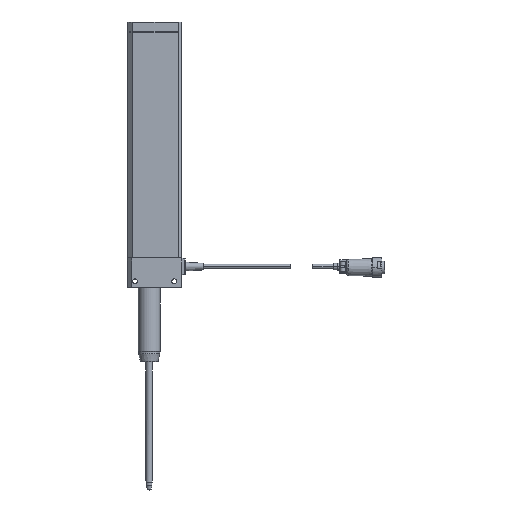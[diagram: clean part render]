
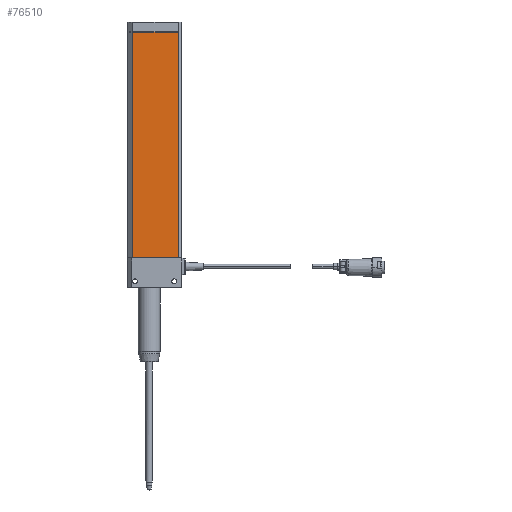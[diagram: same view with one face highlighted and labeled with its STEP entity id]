
A CAD part, left-side view. The second image highlights one B-rep face of the part: STEP entity #76510.
In plain terms, the highlighted planar face has unit normal (-1, 0, 0).
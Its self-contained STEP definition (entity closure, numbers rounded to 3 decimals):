
#45760=CARTESIAN_POINT('',(9.,2.86,207.));
#45770=DIRECTION('',(0.,1.,0.));
#45780=VECTOR('',#45770,1.);
#45790=LINE('',#45760,#45780);
#45800=CARTESIAN_POINT('',(9.,2.86,207.));
#45810=VERTEX_POINT('',#45800);
#45820=CARTESIAN_POINT('',(9.,44.586,207.));
#45830=VERTEX_POINT('',#45820);
#45840=EDGE_CURVE('',#45810,#45830,#45790,.T.);
#47860=CARTESIAN_POINT('',(9.,2.86,207.));
#47870=DIRECTION('',(0.,0.,-1.));
#47880=VECTOR('',#47870,1.);
#47890=LINE('',#47860,#47880);
#47900=CARTESIAN_POINT('',(9.,2.86,0.));
#47910=VERTEX_POINT('',#47900);
#47920=EDGE_CURVE('',#45810,#47910,#47890,.T.);
#50290=CARTESIAN_POINT('',(9.,44.586,0.));
#50300=VERTEX_POINT('',#50290);
#50330=CARTESIAN_POINT('',(9.,2.86,0.));
#50340=DIRECTION('',(0.,1.,0.));
#50350=VECTOR('',#50340,1.);
#50360=LINE('',#50330,#50350);
#50370=EDGE_CURVE('',#47910,#50300,#50360,.T.);
#76300=CARTESIAN_POINT('',(9.,44.586,0.));
#76310=DIRECTION('',(0.,0.,1.));
#76320=VECTOR('',#76310,1.);
#76330=LINE('',#76300,#76320);
#76340=EDGE_CURVE('',#50300,#45830,#76330,.T.);
#76400=CARTESIAN_POINT('',(9.,2.86,0.));
#76410=DIRECTION('',(-1.,0.,0.));
#76420=DIRECTION('',(0.,1.,0.));
#76430=AXIS2_PLACEMENT_3D('',#76400,#76410,#76420);
#76440=PLANE('',#76430);
#76450=ORIENTED_EDGE('',*,*,#76340,.F.);
#76460=ORIENTED_EDGE('',*,*,#45840,.T.);
#76470=ORIENTED_EDGE('',*,*,#47920,.F.);
#76480=ORIENTED_EDGE('',*,*,#50370,.F.);
#76490=EDGE_LOOP('',(#76480,#76470,#76460,#76450));
#76500=FACE_OUTER_BOUND('',#76490,.T.);
#76510=ADVANCED_FACE('',(#76500),#76440,.T.);
